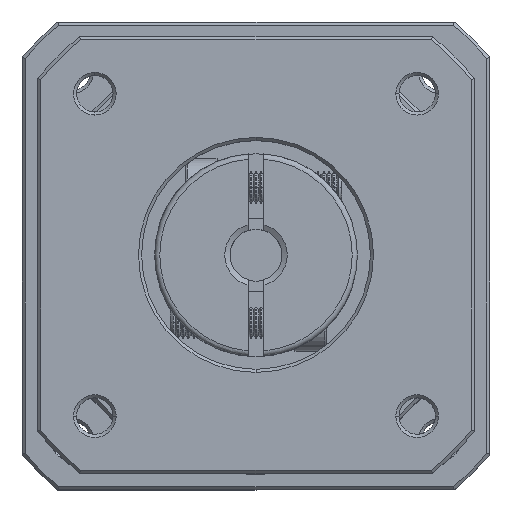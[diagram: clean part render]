
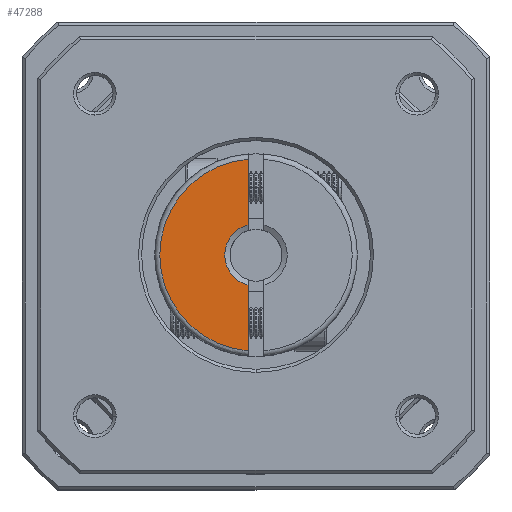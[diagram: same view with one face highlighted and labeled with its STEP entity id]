
A CAD part, top view. The second image highlights one B-rep face of the part: STEP entity #47288.
In plain terms, the highlighted planar face has unit normal (0, 0, 1).
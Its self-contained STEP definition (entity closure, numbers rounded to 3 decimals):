
#1295 = VECTOR ( 'NONE', #83262, 1000. ) ;
#2153 = AXIS2_PLACEMENT_3D ( 'NONE', #21291, #41949, #79644 ) ;
#4021 = CARTESIAN_POINT ( 'NONE',  ( 7.42, -9.416, 49.5 ) ) ;
#5595 = DIRECTION ( 'NONE',  ( 0., 0., 1. ) ) ;
#6899 = ORIENTED_EDGE ( 'NONE', *, *, #59338, .F. ) ;
#11068 = DIRECTION ( 'NONE',  ( 0., -1., 0. ) ) ;
#15105 = LINE ( 'NONE', #4021, #47410 ) ;
#19001 = CARTESIAN_POINT ( 'NONE',  ( 7.42, 3.488, 49.5 ) ) ;
#21291 = CARTESIAN_POINT ( 'NONE',  ( 8.17, 0.584, 49.5 ) ) ;
#22829 = AXIS2_PLACEMENT_3D ( 'NONE', #27167, #84524, #11068 ) ;
#26039 = DIRECTION ( 'NONE',  ( 0., 1., 0. ) ) ;
#26964 = CARTESIAN_POINT ( 'NONE',  ( 8.17, 0.584, 49.5 ) ) ;
#27167 = CARTESIAN_POINT ( 'NONE',  ( 8.17, 0.584, 49.5 ) ) ;
#28147 = EDGE_CURVE ( 'NONE', #60236, #29638, #48508, .T. ) ;
#29638 = VERTEX_POINT ( 'NONE', #47948 ) ;
#33498 = FACE_OUTER_BOUND ( 'NONE', #62342, .T. ) ;
#41949 = DIRECTION ( 'NONE',  ( 0., 0., -1. ) ) ;
#47288 = ADVANCED_FACE ( 'NONE', ( #33498 ), #65466, .F. ) ;
#47410 = VECTOR ( 'NONE', #26039, 1000. ) ;
#47948 = CARTESIAN_POINT ( 'NONE',  ( 7.42, -2.321, 49.5 ) ) ;
#48508 = CIRCLE ( 'NONE', #52635, 3. ) ;
#51689 = VERTEX_POINT ( 'NONE', #86651 ) ;
#52635 = AXIS2_PLACEMENT_3D ( 'NONE', #26964, #5595, #72036 ) ;
#54694 = EDGE_CURVE ( 'NONE', #73034, #60236, #62533, .T. ) ;
#59338 = EDGE_CURVE ( 'NONE', #51689, #73034, #82827, .T. ) ;
#60236 = VERTEX_POINT ( 'NONE', #19001 ) ;
#62342 = EDGE_LOOP ( 'NONE', ( #82710, #90854, #74187, #6899 ) ) ;
#62533 = LINE ( 'NONE', #68154, #1295 ) ;
#64794 = CARTESIAN_POINT ( 'NONE',  ( 7.42, 9.803, 49.5 ) ) ;
#65466 = PLANE ( 'NONE',  #2153 ) ;
#68154 = CARTESIAN_POINT ( 'NONE',  ( 7.42, 0.584, 49.5 ) ) ;
#72036 = DIRECTION ( 'NONE',  ( 0., 1., 0. ) ) ;
#73034 = VERTEX_POINT ( 'NONE', #64794 ) ;
#74187 = ORIENTED_EDGE ( 'NONE', *, *, #54694, .F. ) ;
#79644 = DIRECTION ( 'NONE',  ( 0., -1., 0. ) ) ;
#82710 = ORIENTED_EDGE ( 'NONE', *, *, #91217, .T. ) ;
#82827 = CIRCLE ( 'NONE', #22829, 9.25 ) ;
#83262 = DIRECTION ( 'NONE',  ( 0., -1., 0. ) ) ;
#84524 = DIRECTION ( 'NONE',  ( 0., 0., -1. ) ) ;
#86651 = CARTESIAN_POINT ( 'NONE',  ( 7.42, -8.636, 49.5 ) ) ;
#90854 = ORIENTED_EDGE ( 'NONE', *, *, #28147, .F. ) ;
#91217 = EDGE_CURVE ( 'NONE', #51689, #29638, #15105, .T. ) ;
